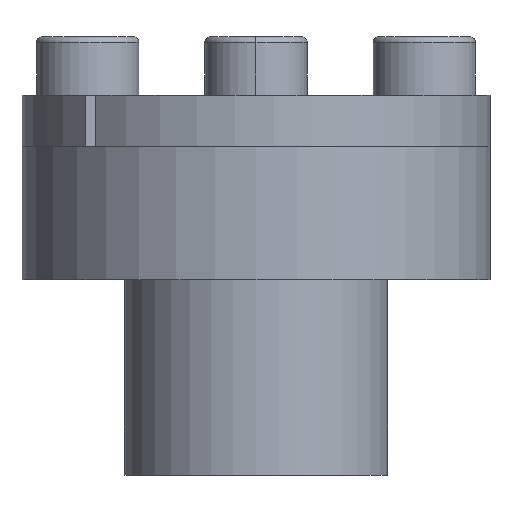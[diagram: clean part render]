
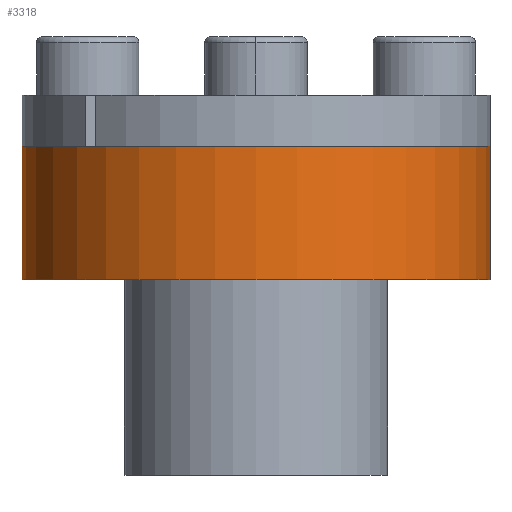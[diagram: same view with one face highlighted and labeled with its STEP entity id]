
A CAD part, front view. The second image highlights one B-rep face of the part: STEP entity #3318.
In plain terms, the highlighted cylindrical face has radius 16 mm (diameter 32 mm), a partial arc.
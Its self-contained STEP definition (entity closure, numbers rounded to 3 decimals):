
#472 = AXIS2_PLACEMENT_3D ( 'NONE', #6606, #3007, #7180 ) ;
#530 = EDGE_CURVE ( 'NONE', #3110, #6030, #1427, .T. ) ;
#1042 = AXIS2_PLACEMENT_3D ( 'NONE', #5209, #1584, #5823 ) ;
#1143 = CARTESIAN_POINT ( 'NONE',  ( -16., 0., 2.482 ) ) ;
#1220 = EDGE_CURVE ( 'NONE', #3110, #1480, #4909, .T. ) ;
#1376 = CARTESIAN_POINT ( 'NONE',  ( 16., 0., -6.618 ) ) ;
#1427 = LINE ( 'NONE', #5668, #4644 ) ;
#1480 = VERTEX_POINT ( 'NONE', #4786 ) ;
#1487 = EDGE_CURVE ( 'NONE', #6030, #7224, #4540, .T. ) ;
#1523 = ORIENTED_EDGE ( 'NONE', *, *, #1220, .F. ) ;
#1584 = DIRECTION ( 'NONE',  ( 0., 0., 1. ) ) ;
#2072 = DIRECTION ( 'NONE',  ( 0., 0., -1. ) ) ;
#2171 = DIRECTION ( 'NONE',  ( 0., 0., -1. ) ) ;
#2495 = ORIENTED_EDGE ( 'NONE', *, *, #530, .T. ) ;
#2556 = FACE_OUTER_BOUND ( 'NONE', #6272, .T. ) ;
#2797 = ORIENTED_EDGE ( 'NONE', *, *, #7471, .F. ) ;
#2952 = CARTESIAN_POINT ( 'NONE',  ( -16., 0., -6.618 ) ) ;
#3007 = DIRECTION ( 'NONE',  ( 0., 0., 1. ) ) ;
#3110 = VERTEX_POINT ( 'NONE', #1143 ) ;
#3318 = ADVANCED_FACE ( 'NONE', ( #2556 ), #4994, .T. ) ;
#3862 = LINE ( 'NONE', #4003, #7049 ) ;
#4003 = CARTESIAN_POINT ( 'NONE',  ( 16., 0., 2.482 ) ) ;
#4540 = CIRCLE ( 'NONE', #472, 16. ) ;
#4644 = VECTOR ( 'NONE', #2072, 1000. ) ;
#4786 = CARTESIAN_POINT ( 'NONE',  ( 16., 0., 2.482 ) ) ;
#4909 = CIRCLE ( 'NONE', #1042, 16. ) ;
#4934 = DIRECTION ( 'NONE',  ( 0., 0., -1. ) ) ;
#4964 = DIRECTION ( 'NONE',  ( -1., 0., 0. ) ) ;
#4994 = CYLINDRICAL_SURFACE ( 'NONE', #7138, 16. ) ;
#5209 = CARTESIAN_POINT ( 'NONE',  ( 0., 0., 2.482 ) ) ;
#5546 = CARTESIAN_POINT ( 'NONE',  ( 0., 0., 2.482 ) ) ;
#5668 = CARTESIAN_POINT ( 'NONE',  ( -16., 0., 2.482 ) ) ;
#5812 = ORIENTED_EDGE ( 'NONE', *, *, #1487, .T. ) ;
#5823 = DIRECTION ( 'NONE',  ( 1., 0., 0. ) ) ;
#6030 = VERTEX_POINT ( 'NONE', #2952 ) ;
#6272 = EDGE_LOOP ( 'NONE', ( #2797, #1523, #2495, #5812 ) ) ;
#6606 = CARTESIAN_POINT ( 'NONE',  ( 0., 0., -6.618 ) ) ;
#7049 = VECTOR ( 'NONE', #2171, 1000. ) ;
#7138 = AXIS2_PLACEMENT_3D ( 'NONE', #5546, #4934, #4964 ) ;
#7180 = DIRECTION ( 'NONE',  ( 1., 0., 0. ) ) ;
#7224 = VERTEX_POINT ( 'NONE', #1376 ) ;
#7471 = EDGE_CURVE ( 'NONE', #1480, #7224, #3862, .T. ) ;
